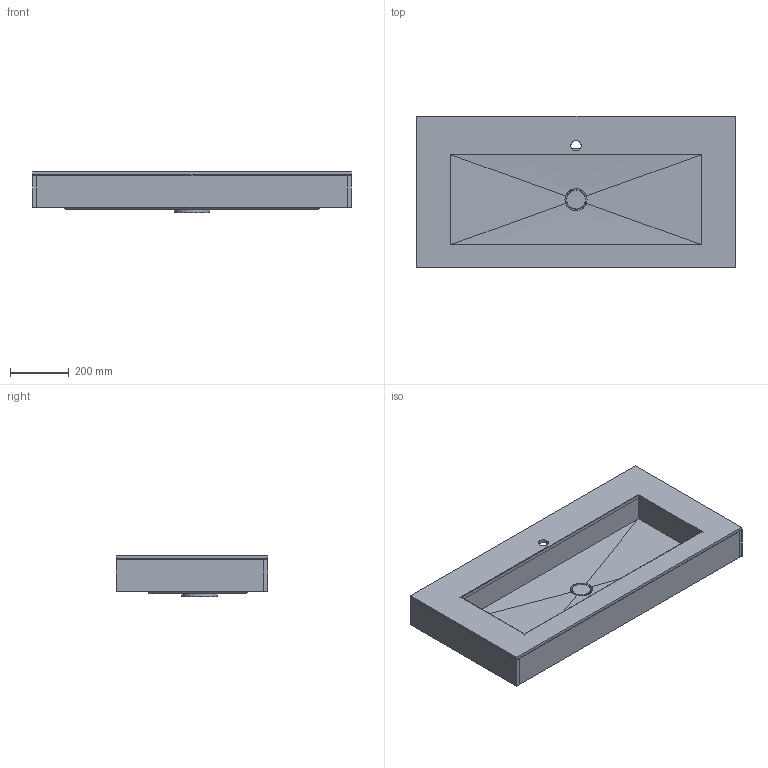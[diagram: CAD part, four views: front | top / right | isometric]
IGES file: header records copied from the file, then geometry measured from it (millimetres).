
Start section: Data from Parasolid IGES Translator 22.0.50, Copyright(c) 2006 Siemens P LM Software. All Rights Reserved.
Global section: file name: noorth-top-H 12 D 51,2 W 108_4370.igs; native system: By Siemens PLM Incorporated; preprocessor: XPlus GENERIC/IGES 22.0.50; author: Noname; organization: Noname; date: 20251109.140734; units: metre
Bounding box: 1080 x 512 x 139.29 mm (x, y, z)
Volume: 19194295.8 mm3; surface area: 2597376.4 mm2
Topology: 12 solids, 12 shells, 115 faces, 270 edges, 183 vertices
Faces by surface type: plane 97, cylinder 9, cone 5, bspline 4
Full cylindrical faces by diameter (mm): 34 x2, 34.697 x1, 45 x2, 65 x2, 75 x1, 120 x1
